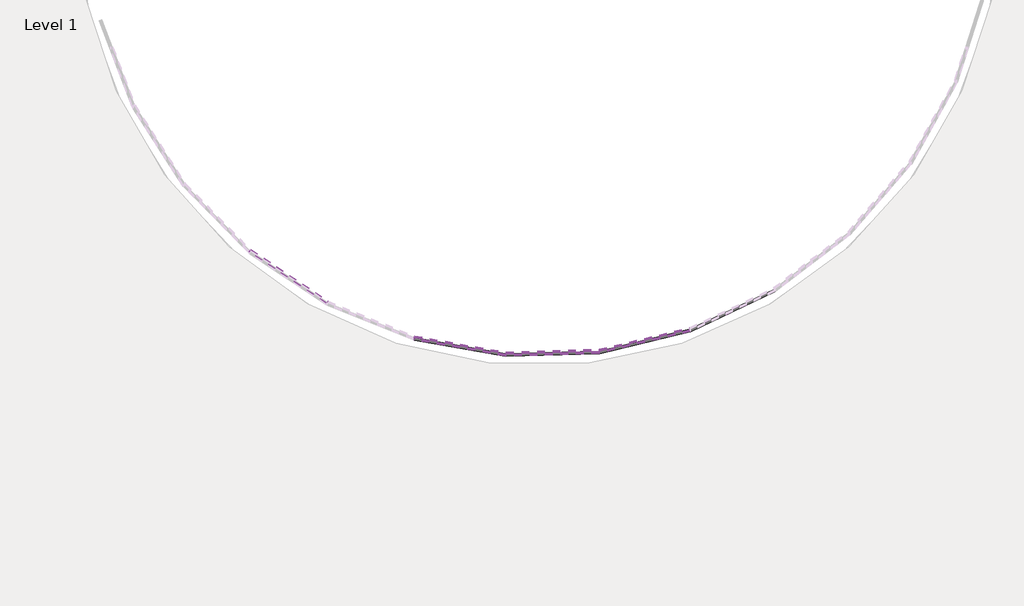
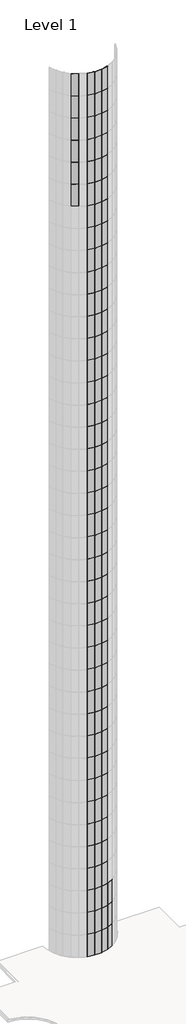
# One storey, part 17 of 19: 129 plates.
"""IFC4 building model written with IfcOpenShell, lengths in millimetres."""

from ifc_helpers import new_model, si_unit, origin, place, context, project, spatial, transform, mapped, element, save
from components import system_panel_glazed_d77d1ebf

model = new_model("IFC4")

# Units and contexts
model_context = context("Model", 3, world=origin())
ifc_project = project(units=[si_unit("LENGTHUNIT", "METRE", prefix="MILLI")], contexts=[model_context])

# Site, building, storey
site = spatial("IfcSite", under=ifc_project)
building = spatial("IfcBuilding", under=site)
storey = spatial("IfcBuildingStorey", under=building, Name="Level 1", Elevation=0.0)

# Plates
placement = place(None, origin())
system_panel_glazed_shape = system_panel_glazed_d77d1ebf(model_context)
element("IfcPlate", 1, ObjectType="System Panel : Glazed", at=placement, inside=storey, context=model_context, shape_type="MappedRepresentation", body=[
    mapped(system_panel_glazed_shape, transform((4552.3376348, 4749.7309007, 0.0), x_axis=(0.9722724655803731, 0.2338509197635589, 0.0), y_axis=(-0.2338509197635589, 0.9722724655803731, 0.0), z_axis=(0.0, 0.0, 1.0))),
])
element("IfcPlate", 2, ObjectType="System Panel : Glazed", at=placement, inside=storey, context=model_context, shape_type="MappedRepresentation", body=[
    mapped(system_panel_glazed_shape, transform((5410.1290798, 5052.2006253, 0.0), x_axis=(0.9039117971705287, 0.4277189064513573, 0.0), y_axis=(-0.4277189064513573, 0.9039117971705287, 0.0), z_axis=(0.0, 0.0, 1.0))),
])
element("IfcPlate", 3, ObjectType="System Panel : Glazed", at=placement, inside=storey, context=model_context, shape_type="MappedRepresentation", body=[
    mapped(system_panel_glazed_shape, transform((4552.3376348, 4749.7309007, 3048.0), x_axis=(0.9722724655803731, 0.2338509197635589, 0.0), y_axis=(-0.2338509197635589, 0.9722724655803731, 0.0), z_axis=(0.0, 0.0, 1.0))),
])
element("IfcPlate", 4, ObjectType="System Panel : Glazed", at=placement, inside=storey, context=model_context, shape_type="MappedRepresentation", body=[
    mapped(system_panel_glazed_shape, transform((5410.1290798, 5052.2006253, 3048.0), x_axis=(0.9039117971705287, 0.4277189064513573, 0.0), y_axis=(-0.4277189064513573, 0.9039117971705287, 0.0), z_axis=(0.0, 0.0, 1.0))),
])
element("IfcPlate", 5, ObjectType="System Panel : Glazed", at=placement, inside=storey, context=model_context, shape_type="MappedRepresentation", body=[
    mapped(system_panel_glazed_shape, transform((4552.3376348, 4749.7309007, 6096.0), x_axis=(0.9722724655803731, 0.2338509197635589, 0.0), y_axis=(-0.2338509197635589, 0.9722724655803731, 0.0), z_axis=(0.0, 0.0, 1.0))),
])
element("IfcPlate", 6, ObjectType="System Panel : Glazed", at=placement, inside=storey, context=model_context, shape_type="MappedRepresentation", body=[
    mapped(system_panel_glazed_shape, transform((5410.1290798, 5052.2006253, 6096.0), x_axis=(0.9039117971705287, 0.4277189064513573, 0.0), y_axis=(-0.4277189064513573, 0.9039117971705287, 0.0), z_axis=(0.0, 0.0, 1.0))),
])
element("IfcPlate", 7, ObjectType="System Panel : Glazed", at=placement, inside=storey, context=model_context, shape_type="MappedRepresentation", body=[
    mapped(system_panel_glazed_shape, transform((4552.3376348, 4749.7309007, 9144.0), x_axis=(0.9722724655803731, 0.2338509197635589, 0.0), y_axis=(-0.2338509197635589, 0.9722724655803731, 0.0), z_axis=(0.0, 0.0, 1.0))),
])
element("IfcPlate", 8, ObjectType="System Panel : Glazed", at=placement, inside=storey, context=model_context, shape_type="MappedRepresentation", body=[
    mapped(system_panel_glazed_shape, transform((4552.3376348, 4749.7309007, 12192.0), x_axis=(0.9722724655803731, 0.2338509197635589, 0.0), y_axis=(-0.2338509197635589, 0.9722724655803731, 0.0), z_axis=(0.0, 0.0, 1.0))),
])
element("IfcPlate", 9, ObjectType="System Panel : Glazed", at=placement, inside=storey, context=model_context, shape_type="MappedRepresentation", body=[
    mapped(system_panel_glazed_shape, transform((4552.3376348, 4749.7309007, 15240.0), x_axis=(0.9722724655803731, 0.2338509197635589, 0.0), y_axis=(-0.2338509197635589, 0.9722724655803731, 0.0), z_axis=(0.0, 0.0, 1.0))),
])
element("IfcPlate", 10, ObjectType="System Panel : Glazed", at=placement, inside=storey, context=model_context, shape_type="MappedRepresentation", body=[
    mapped(system_panel_glazed_shape, transform((4552.3376348, 4749.7309007, 18288.0), x_axis=(0.9722724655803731, 0.2338509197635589, 0.0), y_axis=(-0.2338509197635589, 0.9722724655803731, 0.0), z_axis=(0.0, 0.0, 1.0))),
])
element("IfcPlate", 11, ObjectType="System Panel : Glazed", at=placement, inside=storey, context=model_context, shape_type="MappedRepresentation", body=[
    mapped(system_panel_glazed_shape, transform((4552.3376348, 4749.7309007, 21336.0), x_axis=(0.9722724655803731, 0.2338509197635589, 0.0), y_axis=(-0.2338509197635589, 0.9722724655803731, 0.0), z_axis=(0.0, 0.0, 1.0))),
])
element("IfcPlate", 12, ObjectType="System Panel : Glazed", at=placement, inside=storey, context=model_context, shape_type="MappedRepresentation", body=[
    mapped(system_panel_glazed_shape, transform((4552.3376348, 4749.7309007, 24384.0), x_axis=(0.9722724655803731, 0.2338509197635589, 0.0), y_axis=(-0.2338509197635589, 0.9722724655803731, 0.0), z_axis=(0.0, 0.0, 1.0))),
])
element("IfcPlate", 13, ObjectType="System Panel : Glazed", at=placement, inside=storey, context=model_context, shape_type="MappedRepresentation", body=[
    mapped(system_panel_glazed_shape, transform((4552.3376348, 4749.7309007, 27432.0), x_axis=(0.9722724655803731, 0.2338509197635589, 0.0), y_axis=(-0.2338509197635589, 0.9722724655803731, 0.0), z_axis=(0.0, 0.0, 1.0))),
])
element("IfcPlate", 14, ObjectType="System Panel : Glazed", at=placement, inside=storey, context=model_context, shape_type="MappedRepresentation", body=[
    mapped(system_panel_glazed_shape, transform((4552.3376348, 4749.7309007, 30480.0), x_axis=(0.9722724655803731, 0.2338509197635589, 0.0), y_axis=(-0.2338509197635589, 0.9722724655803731, 0.0), z_axis=(0.0, 0.0, 1.0))),
])
element("IfcPlate", 15, ObjectType="System Panel : Glazed", at=placement, inside=storey, context=model_context, shape_type="MappedRepresentation", body=[
    mapped(system_panel_glazed_shape, transform((4552.3376348, 4749.7309007, 33528.0), x_axis=(0.9722724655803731, 0.2338509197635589, 0.0), y_axis=(-0.2338509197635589, 0.9722724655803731, 0.0), z_axis=(0.0, 0.0, 1.0))),
])
element("IfcPlate", 16, ObjectType="System Panel : Glazed", at=placement, inside=storey, context=model_context, shape_type="MappedRepresentation", body=[
    mapped(system_panel_glazed_shape, transform((4552.3376348, 4749.7309007, 36576.0), x_axis=(0.9722724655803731, 0.2338509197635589, 0.0), y_axis=(-0.2338509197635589, 0.9722724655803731, 0.0), z_axis=(0.0, 0.0, 1.0))),
])
element("IfcPlate", 17, ObjectType="System Panel : Glazed", at=placement, inside=storey, context=model_context, shape_type="MappedRepresentation", body=[
    mapped(system_panel_glazed_shape, transform((4552.3376348, 4749.7309007, 39624.0), x_axis=(0.9722724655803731, 0.2338509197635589, 0.0), y_axis=(-0.2338509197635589, 0.9722724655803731, 0.0), z_axis=(0.0, 0.0, 1.0))),
])
element("IfcPlate", 18, ObjectType="System Panel : Glazed", at=placement, inside=storey, context=model_context, shape_type="MappedRepresentation", body=[
    mapped(system_panel_glazed_shape, transform((4552.3376348, 4749.7309007, 42672.0), x_axis=(0.9722724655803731, 0.2338509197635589, 0.0), y_axis=(-0.2338509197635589, 0.9722724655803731, 0.0), z_axis=(0.0, 0.0, 1.0))),
])
element("IfcPlate", 19, ObjectType="System Panel : Glazed", at=placement, inside=storey, context=model_context, shape_type="MappedRepresentation", body=[
    mapped(system_panel_glazed_shape, transform((4552.3376348, 4749.7309007, 45720.0), x_axis=(0.9722724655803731, 0.2338509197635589, 0.0), y_axis=(-0.2338509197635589, 0.9722724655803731, 0.0), z_axis=(0.0, 0.0, 1.0))),
])
element("IfcPlate", 20, ObjectType="System Panel : Glazed", at=placement, inside=storey, context=model_context, shape_type="MappedRepresentation", body=[
    mapped(system_panel_glazed_shape, transform((4552.3376348, 4749.7309007, 48768.0), x_axis=(0.9722724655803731, 0.2338509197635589, 0.0), y_axis=(-0.2338509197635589, 0.9722724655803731, 0.0), z_axis=(0.0, 0.0, 1.0))),
])
element("IfcPlate", 21, ObjectType="System Panel : Glazed", at=placement, inside=storey, context=model_context, shape_type="MappedRepresentation", body=[
    mapped(system_panel_glazed_shape, transform((4552.3376348, 4749.7309007, 51816.0), x_axis=(0.9722724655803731, 0.2338509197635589, 0.0), y_axis=(-0.2338509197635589, 0.9722724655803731, 0.0), z_axis=(0.0, 0.0, 1.0))),
])
element("IfcPlate", 22, ObjectType="System Panel : Glazed", at=placement, inside=storey, context=model_context, shape_type="MappedRepresentation", body=[
    mapped(system_panel_glazed_shape, transform((4552.3376348, 4749.7309007, 54864.0), x_axis=(0.9722724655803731, 0.2338509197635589, 0.0), y_axis=(-0.2338509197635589, 0.9722724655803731, 0.0), z_axis=(0.0, 0.0, 1.0))),
])
element("IfcPlate", 23, ObjectType="System Panel : Glazed", at=placement, inside=storey, context=model_context, shape_type="MappedRepresentation", body=[
    mapped(system_panel_glazed_shape, transform((4552.3376348, 4749.7309007, 57912.0), x_axis=(0.9722724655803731, 0.2338509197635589, 0.0), y_axis=(-0.2338509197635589, 0.9722724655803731, 0.0), z_axis=(0.0, 0.0, 1.0))),
])
element("IfcPlate", 24, ObjectType="System Panel : Glazed", at=placement, inside=storey, context=model_context, shape_type="MappedRepresentation", body=[
    mapped(system_panel_glazed_shape, transform((4552.3376348, 4749.7309007, 60960.0), x_axis=(0.9722724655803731, 0.2338509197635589, 0.0), y_axis=(-0.2338509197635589, 0.9722724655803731, 0.0), z_axis=(0.0, 0.0, 1.0))),
])
element("IfcPlate", 25, ObjectType="System Panel : Glazed", at=placement, inside=storey, context=model_context, shape_type="MappedRepresentation", body=[
    mapped(system_panel_glazed_shape, transform((4552.3376348, 4749.7309007, 64008.0), x_axis=(0.9722724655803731, 0.2338509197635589, 0.0), y_axis=(-0.2338509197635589, 0.9722724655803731, 0.0), z_axis=(0.0, 0.0, 1.0))),
])
element("IfcPlate", 26, ObjectType="System Panel : Glazed", at=placement, inside=storey, context=model_context, shape_type="MappedRepresentation", body=[
    mapped(system_panel_glazed_shape, transform((4552.3376348, 4749.7309007, 67056.0), x_axis=(0.9722724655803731, 0.2338509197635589, 0.0), y_axis=(-0.2338509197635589, 0.9722724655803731, 0.0), z_axis=(0.0, 0.0, 1.0))),
])
element("IfcPlate", 27, ObjectType="System Panel : Glazed", at=placement, inside=storey, context=model_context, shape_type="MappedRepresentation", body=[
    mapped(system_panel_glazed_shape, transform((4552.3376348, 4749.7309007, 70104.0), x_axis=(0.9722724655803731, 0.2338509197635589, 0.0), y_axis=(-0.2338509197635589, 0.9722724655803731, 0.0), z_axis=(0.0, 0.0, 1.0))),
])
element("IfcPlate", 28, ObjectType="System Panel : Glazed", at=placement, inside=storey, context=model_context, shape_type="MappedRepresentation", body=[
    mapped(system_panel_glazed_shape, transform((4552.3376348, 4749.7309007, 73152.0), x_axis=(0.9722724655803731, 0.2338509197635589, 0.0), y_axis=(-0.2338509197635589, 0.9722724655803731, 0.0), z_axis=(0.0, 0.0, 1.0))),
])
element("IfcPlate", 29, ObjectType="System Panel : Glazed", at=placement, inside=storey, context=model_context, shape_type="MappedRepresentation", body=[
    mapped(system_panel_glazed_shape, transform((4552.3376348, 4749.7309007, 76200.0), x_axis=(0.9722724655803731, 0.2338509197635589, 0.0), y_axis=(-0.2338509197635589, 0.9722724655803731, 0.0), z_axis=(0.0, 0.0, 1.0))),
])
element("IfcPlate", 30, ObjectType="System Panel : Glazed", at=placement, inside=storey, context=model_context, shape_type="MappedRepresentation", body=[
    mapped(system_panel_glazed_shape, transform((4552.3376348, 4749.7309007, 79248.0), x_axis=(0.9722724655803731, 0.2338509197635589, 0.0), y_axis=(-0.2338509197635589, 0.9722724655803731, 0.0), z_axis=(0.0, 0.0, 1.0))),
])
element("IfcPlate", 31, ObjectType="System Panel : Glazed", at=placement, inside=storey, context=model_context, shape_type="MappedRepresentation", body=[
    mapped(system_panel_glazed_shape, transform((4552.3376348, 4749.7309007, 82296.0), x_axis=(0.9722724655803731, 0.2338509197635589, 0.0), y_axis=(-0.2338509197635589, 0.9722724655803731, 0.0), z_axis=(0.0, 0.0, 1.0))),
])
element("IfcPlate", 32, ObjectType="System Panel : Glazed", at=placement, inside=storey, context=model_context, shape_type="MappedRepresentation", body=[
    mapped(system_panel_glazed_shape, transform((4552.3376348, 4749.7309007, 85344.0), x_axis=(0.9722724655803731, 0.2338509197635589, 0.0), y_axis=(-0.2338509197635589, 0.9722724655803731, 0.0), z_axis=(0.0, 0.0, 1.0))),
])
element("IfcPlate", 33, ObjectType="System Panel : Glazed", at=placement, inside=storey, context=model_context, shape_type="MappedRepresentation", body=[
    mapped(system_panel_glazed_shape, transform((4552.3376348, 4749.7309007, 88392.0), x_axis=(0.9722724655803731, 0.2338509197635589, 0.0), y_axis=(-0.2338509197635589, 0.9722724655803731, 0.0), z_axis=(0.0, 0.0, 1.0))),
])
element("IfcPlate", 34, ObjectType="System Panel : Glazed", at=placement, inside=storey, context=model_context, shape_type="MappedRepresentation", body=[
    mapped(system_panel_glazed_shape, transform((4552.3376348, 4749.7309007, 91440.0), x_axis=(0.9722724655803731, 0.2338509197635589, 0.0), y_axis=(-0.2338509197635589, 0.9722724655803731, 0.0), z_axis=(0.0, 0.0, 1.0))),
])
element("IfcPlate", 35, ObjectType="System Panel : Glazed", at=placement, inside=storey, context=model_context, shape_type="MappedRepresentation", body=[
    mapped(system_panel_glazed_shape, transform((4552.3376348, 4749.7309007, 94488.0), x_axis=(0.9722724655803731, 0.2338509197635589, 0.0), y_axis=(-0.2338509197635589, 0.9722724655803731, 0.0), z_axis=(0.0, 0.0, 1.0))),
])
element("IfcPlate", 36, ObjectType="System Panel : Glazed", at=placement, inside=storey, context=model_context, shape_type="MappedRepresentation", body=[
    mapped(system_panel_glazed_shape, transform((4552.3376348, 4749.7309007, 97536.0), x_axis=(0.9722724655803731, 0.2338509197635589, 0.0), y_axis=(-0.2338509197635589, 0.9722724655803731, 0.0), z_axis=(0.0, 0.0, 1.0))),
])
element("IfcPlate", 37, ObjectType="System Panel : Glazed", at=placement, inside=storey, context=model_context, shape_type="MappedRepresentation", body=[
    mapped(system_panel_glazed_shape, transform((4552.3376348, 4749.7309007, 100584.0), x_axis=(0.9722724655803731, 0.2338509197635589, 0.0), y_axis=(-0.2338509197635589, 0.9722724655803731, 0.0), z_axis=(0.0, 0.0, 1.0))),
])
element("IfcPlate", 38, ObjectType="System Panel : Glazed", at=placement, inside=storey, context=model_context, shape_type="MappedRepresentation", body=[
    mapped(system_panel_glazed_shape, transform((2743.6779183, 4695.2639957, 0.0), x_axis=(0.9845824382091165, -0.1749211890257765, 0.0), y_axis=(0.1749211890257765, 0.9845824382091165, 0.0), z_axis=(0.0, 0.0, 1.0))),
])
element("IfcPlate", 39, ObjectType="System Panel : Glazed", at=placement, inside=storey, context=model_context, shape_type="MappedRepresentation", body=[
    mapped(system_panel_glazed_shape, transform((2743.6779183, 4695.2639957, 3048.0), x_axis=(0.9845824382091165, -0.1749211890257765, 0.0), y_axis=(0.1749211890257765, 0.9845824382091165, 0.0), z_axis=(0.0, 0.0, 1.0))),
])
element("IfcPlate", 40, ObjectType="System Panel : Glazed", at=placement, inside=storey, context=model_context, shape_type="MappedRepresentation", body=[
    mapped(system_panel_glazed_shape, transform((2743.6779183, 4695.2639957, 6096.0), x_axis=(0.9845824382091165, -0.1749211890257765, 0.0), y_axis=(0.1749211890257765, 0.9845824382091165, 0.0), z_axis=(0.0, 0.0, 1.0))),
])
element("IfcPlate", 41, ObjectType="System Panel : Glazed", at=placement, inside=storey, context=model_context, shape_type="MappedRepresentation", body=[
    mapped(system_panel_glazed_shape, transform((2743.6779183, 4695.2639957, 9144.0), x_axis=(0.9845824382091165, -0.1749211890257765, 0.0), y_axis=(0.1749211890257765, 0.9845824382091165, 0.0), z_axis=(0.0, 0.0, 1.0))),
])
element("IfcPlate", 42, ObjectType="System Panel : Glazed", at=placement, inside=storey, context=model_context, shape_type="MappedRepresentation", body=[
    mapped(system_panel_glazed_shape, transform((2743.6779183, 4695.2639957, 12192.0), x_axis=(0.9845824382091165, -0.1749211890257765, 0.0), y_axis=(0.1749211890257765, 0.9845824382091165, 0.0), z_axis=(0.0, 0.0, 1.0))),
])
element("IfcPlate", 43, ObjectType="System Panel : Glazed", at=placement, inside=storey, context=model_context, shape_type="MappedRepresentation", body=[
    mapped(system_panel_glazed_shape, transform((2743.6779183, 4695.2639957, 15240.0), x_axis=(0.9845824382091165, -0.1749211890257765, 0.0), y_axis=(0.1749211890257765, 0.9845824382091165, 0.0), z_axis=(0.0, 0.0, 1.0))),
])
element("IfcPlate", 44, ObjectType="System Panel : Glazed", at=placement, inside=storey, context=model_context, shape_type="MappedRepresentation", body=[
    mapped(system_panel_glazed_shape, transform((2743.6779183, 4695.2639957, 18288.0), x_axis=(0.9845824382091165, -0.1749211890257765, 0.0), y_axis=(0.1749211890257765, 0.9845824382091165, 0.0), z_axis=(0.0, 0.0, 1.0))),
])
element("IfcPlate", 45, ObjectType="System Panel : Glazed", at=placement, inside=storey, context=model_context, shape_type="MappedRepresentation", body=[
    mapped(system_panel_glazed_shape, transform((2743.6779183, 4695.2639957, 21336.0), x_axis=(0.9845824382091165, -0.1749211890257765, 0.0), y_axis=(0.1749211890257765, 0.9845824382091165, 0.0), z_axis=(0.0, 0.0, 1.0))),
])
element("IfcPlate", 46, ObjectType="System Panel : Glazed", at=placement, inside=storey, context=model_context, shape_type="MappedRepresentation", body=[
    mapped(system_panel_glazed_shape, transform((2743.6779183, 4695.2639957, 24384.0), x_axis=(0.9845824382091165, -0.1749211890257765, 0.0), y_axis=(0.1749211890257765, 0.9845824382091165, 0.0), z_axis=(0.0, 0.0, 1.0))),
])
element("IfcPlate", 47, ObjectType="System Panel : Glazed", at=placement, inside=storey, context=model_context, shape_type="MappedRepresentation", body=[
    mapped(system_panel_glazed_shape, transform((2743.6779183, 4695.2639957, 27432.0), x_axis=(0.9845824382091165, -0.1749211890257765, 0.0), y_axis=(0.1749211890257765, 0.9845824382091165, 0.0), z_axis=(0.0, 0.0, 1.0))),
])
element("IfcPlate", 48, ObjectType="System Panel : Glazed", at=placement, inside=storey, context=model_context, shape_type="MappedRepresentation", body=[
    mapped(system_panel_glazed_shape, transform((2743.6779183, 4695.2639957, 30480.0), x_axis=(0.9845824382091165, -0.1749211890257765, 0.0), y_axis=(0.1749211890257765, 0.9845824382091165, 0.0), z_axis=(0.0, 0.0, 1.0))),
])
element("IfcPlate", 49, ObjectType="System Panel : Glazed", at=placement, inside=storey, context=model_context, shape_type="MappedRepresentation", body=[
    mapped(system_panel_glazed_shape, transform((2743.6779183, 4695.2639957, 33528.0), x_axis=(0.9845824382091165, -0.1749211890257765, 0.0), y_axis=(0.1749211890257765, 0.9845824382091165, 0.0), z_axis=(0.0, 0.0, 1.0))),
])
element("IfcPlate", 50, ObjectType="System Panel : Glazed", at=placement, inside=storey, context=model_context, shape_type="MappedRepresentation", body=[
    mapped(system_panel_glazed_shape, transform((2743.6779183, 4695.2639957, 36576.0), x_axis=(0.9845824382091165, -0.1749211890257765, 0.0), y_axis=(0.1749211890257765, 0.9845824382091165, 0.0), z_axis=(0.0, 0.0, 1.0))),
])
element("IfcPlate", 51, ObjectType="System Panel : Glazed", at=placement, inside=storey, context=model_context, shape_type="MappedRepresentation", body=[
    mapped(system_panel_glazed_shape, transform((2743.6779183, 4695.2639957, 39624.0), x_axis=(0.9845824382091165, -0.1749211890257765, 0.0), y_axis=(0.1749211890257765, 0.9845824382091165, 0.0), z_axis=(0.0, 0.0, 1.0))),
])
element("IfcPlate", 52, ObjectType="System Panel : Glazed", at=placement, inside=storey, context=model_context, shape_type="MappedRepresentation", body=[
    mapped(system_panel_glazed_shape, transform((2743.6779183, 4695.2639957, 42672.0), x_axis=(0.9845824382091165, -0.1749211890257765, 0.0), y_axis=(0.1749211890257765, 0.9845824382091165, 0.0), z_axis=(0.0, 0.0, 1.0))),
])
element("IfcPlate", 53, ObjectType="System Panel : Glazed", at=placement, inside=storey, context=model_context, shape_type="MappedRepresentation", body=[
    mapped(system_panel_glazed_shape, transform((2743.6779183, 4695.2639957, 45720.0), x_axis=(0.9845824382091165, -0.1749211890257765, 0.0), y_axis=(0.1749211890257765, 0.9845824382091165, 0.0), z_axis=(0.0, 0.0, 1.0))),
])
element("IfcPlate", 54, ObjectType="System Panel : Glazed", at=placement, inside=storey, context=model_context, shape_type="MappedRepresentation", body=[
    mapped(system_panel_glazed_shape, transform((2743.6779183, 4695.2639957, 48768.0), x_axis=(0.9845824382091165, -0.1749211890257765, 0.0), y_axis=(0.1749211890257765, 0.9845824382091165, 0.0), z_axis=(0.0, 0.0, 1.0))),
])
element("IfcPlate", 55, ObjectType="System Panel : Glazed", at=placement, inside=storey, context=model_context, shape_type="MappedRepresentation", body=[
    mapped(system_panel_glazed_shape, transform((2743.6779183, 4695.2639957, 51816.0), x_axis=(0.9845824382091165, -0.1749211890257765, 0.0), y_axis=(0.1749211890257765, 0.9845824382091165, 0.0), z_axis=(0.0, 0.0, 1.0))),
])
element("IfcPlate", 56, ObjectType="System Panel : Glazed", at=placement, inside=storey, context=model_context, shape_type="MappedRepresentation", body=[
    mapped(system_panel_glazed_shape, transform((2743.6779183, 4695.2639957, 54864.0), x_axis=(0.9845824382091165, -0.1749211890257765, 0.0), y_axis=(0.1749211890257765, 0.9845824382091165, 0.0), z_axis=(0.0, 0.0, 1.0))),
])
element("IfcPlate", 57, ObjectType="System Panel : Glazed", at=placement, inside=storey, context=model_context, shape_type="MappedRepresentation", body=[
    mapped(system_panel_glazed_shape, transform((2743.6779183, 4695.2639957, 57912.0), x_axis=(0.9845824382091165, -0.1749211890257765, 0.0), y_axis=(0.1749211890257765, 0.9845824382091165, 0.0), z_axis=(0.0, 0.0, 1.0))),
])
element("IfcPlate", 58, ObjectType="System Panel : Glazed", at=placement, inside=storey, context=model_context, shape_type="MappedRepresentation", body=[
    mapped(system_panel_glazed_shape, transform((2743.6779183, 4695.2639957, 60960.0), x_axis=(0.9845824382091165, -0.1749211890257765, 0.0), y_axis=(0.1749211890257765, 0.9845824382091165, 0.0), z_axis=(0.0, 0.0, 1.0))),
])
element("IfcPlate", 59, ObjectType="System Panel : Glazed", at=placement, inside=storey, context=model_context, shape_type="MappedRepresentation", body=[
    mapped(system_panel_glazed_shape, transform((2743.6779183, 4695.2639957, 64008.0), x_axis=(0.9845824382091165, -0.1749211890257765, 0.0), y_axis=(0.1749211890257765, 0.9845824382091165, 0.0), z_axis=(0.0, 0.0, 1.0))),
])
element("IfcPlate", 60, ObjectType="System Panel : Glazed", at=placement, inside=storey, context=model_context, shape_type="MappedRepresentation", body=[
    mapped(system_panel_glazed_shape, transform((2743.6779183, 4695.2639957, 67056.0), x_axis=(0.9845824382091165, -0.1749211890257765, 0.0), y_axis=(0.1749211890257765, 0.9845824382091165, 0.0), z_axis=(0.0, 0.0, 1.0))),
])
element("IfcPlate", 61, ObjectType="System Panel : Glazed", at=placement, inside=storey, context=model_context, shape_type="MappedRepresentation", body=[
    mapped(system_panel_glazed_shape, transform((2743.6779183, 4695.2639957, 70104.0), x_axis=(0.9845824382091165, -0.1749211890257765, 0.0), y_axis=(0.1749211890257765, 0.9845824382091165, 0.0), z_axis=(0.0, 0.0, 1.0))),
])
element("IfcPlate", 62, ObjectType="System Panel : Glazed", at=placement, inside=storey, context=model_context, shape_type="MappedRepresentation", body=[
    mapped(system_panel_glazed_shape, transform((2743.6779183, 4695.2639957, 73152.0), x_axis=(0.9845824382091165, -0.1749211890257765, 0.0), y_axis=(0.1749211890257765, 0.9845824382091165, 0.0), z_axis=(0.0, 0.0, 1.0))),
])
element("IfcPlate", 63, ObjectType="System Panel : Glazed", at=placement, inside=storey, context=model_context, shape_type="MappedRepresentation", body=[
    mapped(system_panel_glazed_shape, transform((2743.6779183, 4695.2639957, 76200.0), x_axis=(0.9845824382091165, -0.1749211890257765, 0.0), y_axis=(0.1749211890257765, 0.9845824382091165, 0.0), z_axis=(0.0, 0.0, 1.0))),
])
element("IfcPlate", 64, ObjectType="System Panel : Glazed", at=placement, inside=storey, context=model_context, shape_type="MappedRepresentation", body=[
    mapped(system_panel_glazed_shape, transform((2743.6779183, 4695.2639957, 79248.0), x_axis=(0.9845824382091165, -0.1749211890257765, 0.0), y_axis=(0.1749211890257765, 0.9845824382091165, 0.0), z_axis=(0.0, 0.0, 1.0))),
])
element("IfcPlate", 65, ObjectType="System Panel : Glazed", at=placement, inside=storey, context=model_context, shape_type="MappedRepresentation", body=[
    mapped(system_panel_glazed_shape, transform((2743.6779183, 4695.2639957, 82296.0), x_axis=(0.9845824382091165, -0.1749211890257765, 0.0), y_axis=(0.1749211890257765, 0.9845824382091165, 0.0), z_axis=(0.0, 0.0, 1.0))),
])
element("IfcPlate", 66, ObjectType="System Panel : Glazed", at=placement, inside=storey, context=model_context, shape_type="MappedRepresentation", body=[
    mapped(system_panel_glazed_shape, transform((2743.6779183, 4695.2639957, 85344.0), x_axis=(0.9845824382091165, -0.1749211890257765, 0.0), y_axis=(0.1749211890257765, 0.9845824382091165, 0.0), z_axis=(0.0, 0.0, 1.0))),
])
element("IfcPlate", 67, ObjectType="System Panel : Glazed", at=placement, inside=storey, context=model_context, shape_type="MappedRepresentation", body=[
    mapped(system_panel_glazed_shape, transform((2743.6779183, 4695.2639957, 88392.0), x_axis=(0.9845824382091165, -0.1749211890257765, 0.0), y_axis=(0.1749211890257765, 0.9845824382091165, 0.0), z_axis=(0.0, 0.0, 1.0))),
])
element("IfcPlate", 68, ObjectType="System Panel : Glazed", at=placement, inside=storey, context=model_context, shape_type="MappedRepresentation", body=[
    mapped(system_panel_glazed_shape, transform((2743.6779183, 4695.2639957, 91440.0), x_axis=(0.9845824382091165, -0.1749211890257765, 0.0), y_axis=(0.1749211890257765, 0.9845824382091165, 0.0), z_axis=(0.0, 0.0, 1.0))),
])
element("IfcPlate", 69, ObjectType="System Panel : Glazed", at=placement, inside=storey, context=model_context, shape_type="MappedRepresentation", body=[
    mapped(system_panel_glazed_shape, transform((2743.6779183, 4695.2639957, 94488.0), x_axis=(0.9845824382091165, -0.1749211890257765, 0.0), y_axis=(0.1749211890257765, 0.9845824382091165, 0.0), z_axis=(0.0, 0.0, 1.0))),
])
element("IfcPlate", 70, ObjectType="System Panel : Glazed", at=placement, inside=storey, context=model_context, shape_type="MappedRepresentation", body=[
    mapped(system_panel_glazed_shape, transform((2743.6779183, 4695.2639957, 97536.0), x_axis=(0.9845824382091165, -0.1749211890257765, 0.0), y_axis=(0.1749211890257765, 0.9845824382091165, 0.0), z_axis=(0.0, 0.0, 1.0))),
])
element("IfcPlate", 71, ObjectType="System Panel : Glazed", at=placement, inside=storey, context=model_context, shape_type="MappedRepresentation", body=[
    mapped(system_panel_glazed_shape, transform((2743.6779183, 4695.2639957, 100584.0), x_axis=(0.9845824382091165, -0.1749211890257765, 0.0), y_axis=(0.1749211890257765, 0.9845824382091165, 0.0), z_axis=(0.0, 0.0, 1.0))),
])
element("IfcPlate", 72, ObjectType="System Panel : Glazed", at=placement, inside=storey, context=model_context, shape_type="MappedRepresentation", body=[
    mapped(system_panel_glazed_shape, transform((3650.8218363, 4629.0521442, 0.0), x_axis=(0.9995468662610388, 0.030100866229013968, 0.0), y_axis=(-0.030100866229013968, 0.9995468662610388, 0.0), z_axis=(0.0, 0.0, 1.0))),
])
element("IfcPlate", 73, ObjectType="System Panel : Glazed", at=placement, inside=storey, context=model_context, shape_type="MappedRepresentation", body=[
    mapped(system_panel_glazed_shape, transform((3650.8218363, 4629.0521442, 3048.0), x_axis=(0.9995468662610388, 0.030100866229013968, 0.0), y_axis=(-0.030100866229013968, 0.9995468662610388, 0.0), z_axis=(0.0, 0.0, 1.0))),
])
element("IfcPlate", 74, ObjectType="System Panel : Glazed", at=placement, inside=storey, context=model_context, shape_type="MappedRepresentation", body=[
    mapped(system_panel_glazed_shape, transform((3650.8218363, 4629.0521442, 6096.0), x_axis=(0.9995468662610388, 0.030100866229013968, 0.0), y_axis=(-0.030100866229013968, 0.9995468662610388, 0.0), z_axis=(0.0, 0.0, 1.0))),
])
element("IfcPlate", 75, ObjectType="System Panel : Glazed", at=placement, inside=storey, context=model_context, shape_type="MappedRepresentation", body=[
    mapped(system_panel_glazed_shape, transform((3650.8218363, 4629.0521442, 9144.0), x_axis=(0.9995468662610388, 0.030100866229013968, 0.0), y_axis=(-0.030100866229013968, 0.9995468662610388, 0.0), z_axis=(0.0, 0.0, 1.0))),
])
element("IfcPlate", 76, ObjectType="System Panel : Glazed", at=placement, inside=storey, context=model_context, shape_type="MappedRepresentation", body=[
    mapped(system_panel_glazed_shape, transform((3650.8218363, 4629.0521442, 12192.0), x_axis=(0.9995468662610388, 0.030100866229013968, 0.0), y_axis=(-0.030100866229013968, 0.9995468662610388, 0.0), z_axis=(0.0, 0.0, 1.0))),
])
element("IfcPlate", 77, ObjectType="System Panel : Glazed", at=placement, inside=storey, context=model_context, shape_type="MappedRepresentation", body=[
    mapped(system_panel_glazed_shape, transform((3650.8218363, 4629.0521442, 15240.0), x_axis=(0.9995468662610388, 0.030100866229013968, 0.0), y_axis=(-0.030100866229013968, 0.9995468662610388, 0.0), z_axis=(0.0, 0.0, 1.0))),
])
element("IfcPlate", 78, ObjectType="System Panel : Glazed", at=placement, inside=storey, context=model_context, shape_type="MappedRepresentation", body=[
    mapped(system_panel_glazed_shape, transform((3650.8218363, 4629.0521442, 18288.0), x_axis=(0.9995468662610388, 0.03010086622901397, 0.0), y_axis=(-0.03010086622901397, 0.9995468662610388, 0.0), z_axis=(0.0, 0.0, 1.0))),
])
element("IfcPlate", 79, ObjectType="System Panel : Glazed", at=placement, inside=storey, context=model_context, shape_type="MappedRepresentation", body=[
    mapped(system_panel_glazed_shape, transform((3650.8218363, 4629.0521442, 21336.0), x_axis=(0.9995468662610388, 0.030100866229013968, 0.0), y_axis=(-0.030100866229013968, 0.9995468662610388, 0.0), z_axis=(0.0, 0.0, 1.0))),
])
element("IfcPlate", 80, ObjectType="System Panel : Glazed", at=placement, inside=storey, context=model_context, shape_type="MappedRepresentation", body=[
    mapped(system_panel_glazed_shape, transform((3650.8218363, 4629.0521442, 24384.0), x_axis=(0.9995468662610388, 0.030100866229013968, 0.0), y_axis=(-0.030100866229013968, 0.9995468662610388, 0.0), z_axis=(0.0, 0.0, 1.0))),
])
element("IfcPlate", 81, ObjectType="System Panel : Glazed", at=placement, inside=storey, context=model_context, shape_type="MappedRepresentation", body=[
    mapped(system_panel_glazed_shape, transform((3650.8218363, 4629.0521442, 27432.0), x_axis=(0.9995468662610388, 0.030100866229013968, 0.0), y_axis=(-0.030100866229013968, 0.9995468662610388, 0.0), z_axis=(0.0, 0.0, 1.0))),
])
element("IfcPlate", 82, ObjectType="System Panel : Glazed", at=placement, inside=storey, context=model_context, shape_type="MappedRepresentation", body=[
    mapped(system_panel_glazed_shape, transform((3650.8218363, 4629.0521442, 30480.0), x_axis=(0.9995468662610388, 0.030100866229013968, 0.0), y_axis=(-0.030100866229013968, 0.9995468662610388, 0.0), z_axis=(0.0, 0.0, 1.0))),
])
element("IfcPlate", 83, ObjectType="System Panel : Glazed", at=placement, inside=storey, context=model_context, shape_type="MappedRepresentation", body=[
    mapped(system_panel_glazed_shape, transform((3650.8218363, 4629.0521442, 33528.0), x_axis=(0.9995468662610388, 0.030100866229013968, 0.0), y_axis=(-0.030100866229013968, 0.9995468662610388, 0.0), z_axis=(0.0, 0.0, 1.0))),
])
element("IfcPlate", 84, ObjectType="System Panel : Glazed", at=placement, inside=storey, context=model_context, shape_type="MappedRepresentation", body=[
    mapped(system_panel_glazed_shape, transform((3650.8218363, 4629.0521442, 36576.0), x_axis=(0.9995468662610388, 0.030100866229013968, 0.0), y_axis=(-0.030100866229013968, 0.9995468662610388, 0.0), z_axis=(0.0, 0.0, 1.0))),
])
element("IfcPlate", 85, ObjectType="System Panel : Glazed", at=placement, inside=storey, context=model_context, shape_type="MappedRepresentation", body=[
    mapped(system_panel_glazed_shape, transform((3650.8218363, 4629.0521442, 39624.0), x_axis=(0.9995468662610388, 0.030100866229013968, 0.0), y_axis=(-0.030100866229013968, 0.9995468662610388, 0.0), z_axis=(0.0, 0.0, 1.0))),
])
element("IfcPlate", 86, ObjectType="System Panel : Glazed", at=placement, inside=storey, context=model_context, shape_type="MappedRepresentation", body=[
    mapped(system_panel_glazed_shape, transform((3650.8218363, 4629.0521442, 42672.0), x_axis=(0.9995468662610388, 0.030100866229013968, 0.0), y_axis=(-0.030100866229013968, 0.9995468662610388, 0.0), z_axis=(0.0, 0.0, 1.0))),
])
element("IfcPlate", 87, ObjectType="System Panel : Glazed", at=placement, inside=storey, context=model_context, shape_type="MappedRepresentation", body=[
    mapped(system_panel_glazed_shape, transform((3650.8218363, 4629.0521442, 45720.0), x_axis=(0.9995468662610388, 0.030100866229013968, 0.0), y_axis=(-0.030100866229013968, 0.9995468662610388, 0.0), z_axis=(0.0, 0.0, 1.0))),
])
element("IfcPlate", 88, ObjectType="System Panel : Glazed", at=placement, inside=storey, context=model_context, shape_type="MappedRepresentation", body=[
    mapped(system_panel_glazed_shape, transform((3650.8218363, 4629.0521442, 48768.0), x_axis=(0.9995468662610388, 0.030100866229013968, 0.0), y_axis=(-0.030100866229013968, 0.9995468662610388, 0.0), z_axis=(0.0, 0.0, 1.0))),
])
element("IfcPlate", 89, ObjectType="System Panel : Glazed", at=placement, inside=storey, context=model_context, shape_type="MappedRepresentation", body=[
    mapped(system_panel_glazed_shape, transform((3650.8218363, 4629.0521442, 51816.0), x_axis=(0.9995468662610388, 0.030100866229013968, 0.0), y_axis=(-0.030100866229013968, 0.9995468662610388, 0.0), z_axis=(0.0, 0.0, 1.0))),
])
element("IfcPlate", 90, ObjectType="System Panel : Glazed", at=placement, inside=storey, context=model_context, shape_type="MappedRepresentation", body=[
    mapped(system_panel_glazed_shape, transform((3650.8218363, 4629.0521442, 54864.0), x_axis=(0.9995468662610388, 0.030100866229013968, 0.0), y_axis=(-0.030100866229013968, 0.9995468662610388, 0.0), z_axis=(0.0, 0.0, 1.0))),
])
element("IfcPlate", 91, ObjectType="System Panel : Glazed", at=placement, inside=storey, context=model_context, shape_type="MappedRepresentation", body=[
    mapped(system_panel_glazed_shape, transform((3650.8218363, 4629.0521442, 57912.0), x_axis=(0.9995468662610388, 0.030100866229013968, 0.0), y_axis=(-0.030100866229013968, 0.9995468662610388, 0.0), z_axis=(0.0, 0.0, 1.0))),
])
element("IfcPlate", 92, ObjectType="System Panel : Glazed", at=placement, inside=storey, context=model_context, shape_type="MappedRepresentation", body=[
    mapped(system_panel_glazed_shape, transform((3650.8218363, 4629.0521442, 60960.0), x_axis=(0.9995468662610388, 0.030100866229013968, 0.0), y_axis=(-0.030100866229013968, 0.9995468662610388, 0.0), z_axis=(0.0, 0.0, 1.0))),
])
element("IfcPlate", 93, ObjectType="System Panel : Glazed", at=placement, inside=storey, context=model_context, shape_type="MappedRepresentation", body=[
    mapped(system_panel_glazed_shape, transform((3650.8218363, 4629.0521442, 64008.0), x_axis=(0.9995468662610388, 0.030100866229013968, 0.0), y_axis=(-0.030100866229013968, 0.9995468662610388, 0.0), z_axis=(0.0, 0.0, 1.0))),
])
element("IfcPlate", 94, ObjectType="System Panel : Glazed", at=placement, inside=storey, context=model_context, shape_type="MappedRepresentation", body=[
    mapped(system_panel_glazed_shape, transform((3650.8218363, 4629.0521442, 67056.0), x_axis=(0.9995468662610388, 0.030100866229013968, 0.0), y_axis=(-0.030100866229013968, 0.9995468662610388, 0.0), z_axis=(0.0, 0.0, 1.0))),
])
element("IfcPlate", 95, ObjectType="System Panel : Glazed", at=placement, inside=storey, context=model_context, shape_type="MappedRepresentation", body=[
    mapped(system_panel_glazed_shape, transform((3650.8218363, 4629.0521442, 70104.0), x_axis=(0.9995468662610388, 0.030100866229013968, 0.0), y_axis=(-0.030100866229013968, 0.9995468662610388, 0.0), z_axis=(0.0, 0.0, 1.0))),
])
element("IfcPlate", 96, ObjectType="System Panel : Glazed", at=placement, inside=storey, context=model_context, shape_type="MappedRepresentation", body=[
    mapped(system_panel_glazed_shape, transform((3650.8218363, 4629.0521442, 73152.0), x_axis=(0.9995468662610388, 0.030100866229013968, 0.0), y_axis=(-0.030100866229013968, 0.9995468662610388, 0.0), z_axis=(0.0, 0.0, 1.0))),
])
element("IfcPlate", 97, ObjectType="System Panel : Glazed", at=placement, inside=storey, context=model_context, shape_type="MappedRepresentation", body=[
    mapped(system_panel_glazed_shape, transform((3650.8218363, 4629.0521442, 76200.0), x_axis=(0.9995468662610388, 0.030100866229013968, 0.0), y_axis=(-0.030100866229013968, 0.9995468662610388, 0.0), z_axis=(0.0, 0.0, 1.0))),
])
element("IfcPlate", 98, ObjectType="System Panel : Glazed", at=placement, inside=storey, context=model_context, shape_type="MappedRepresentation", body=[
    mapped(system_panel_glazed_shape, transform((3650.8218363, 4629.0521442, 79248.0), x_axis=(0.9995468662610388, 0.030100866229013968, 0.0), y_axis=(-0.030100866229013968, 0.9995468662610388, 0.0), z_axis=(0.0, 0.0, 1.0))),
])
element("IfcPlate", 99, ObjectType="System Panel : Glazed", at=placement, inside=storey, context=model_context, shape_type="MappedRepresentation", body=[
    mapped(system_panel_glazed_shape, transform((3650.8218363, 4629.0521442, 82296.0), x_axis=(0.9995468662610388, 0.030100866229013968, 0.0), y_axis=(-0.030100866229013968, 0.9995468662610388, 0.0), z_axis=(0.0, 0.0, 1.0))),
])
element("IfcPlate", 100, ObjectType="System Panel : Glazed", at=placement, inside=storey, context=model_context, shape_type="MappedRepresentation", body=[
    mapped(system_panel_glazed_shape, transform((3650.8218363, 4629.0521442, 85344.0), x_axis=(0.9995468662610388, 0.030100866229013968, 0.0), y_axis=(-0.030100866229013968, 0.9995468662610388, 0.0), z_axis=(0.0, 0.0, 1.0))),
])
element("IfcPlate", 101, ObjectType="System Panel : Glazed", at=placement, inside=storey, context=model_context, shape_type="MappedRepresentation", body=[
    mapped(system_panel_glazed_shape, transform((3650.8218363, 4629.0521442, 88392.0), x_axis=(0.9995468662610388, 0.030100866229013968, 0.0), y_axis=(-0.030100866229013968, 0.9995468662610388, 0.0), z_axis=(0.0, 0.0, 1.0))),
])
element("IfcPlate", 102, ObjectType="System Panel : Glazed", at=placement, inside=storey, context=model_context, shape_type="MappedRepresentation", body=[
    mapped(system_panel_glazed_shape, transform((3650.8218363, 4629.0521442, 91440.0), x_axis=(0.9995468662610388, 0.030100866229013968, 0.0), y_axis=(-0.030100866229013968, 0.9995468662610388, 0.0), z_axis=(0.0, 0.0, 1.0))),
])
element("IfcPlate", 103, ObjectType="System Panel : Glazed", at=placement, inside=storey, context=model_context, shape_type="MappedRepresentation", body=[
    mapped(system_panel_glazed_shape, transform((3650.8218363, 4629.0521442, 94488.0), x_axis=(0.9995468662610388, 0.030100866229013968, 0.0), y_axis=(-0.030100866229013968, 0.9995468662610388, 0.0), z_axis=(0.0, 0.0, 1.0))),
])
element("IfcPlate", 104, ObjectType="System Panel : Glazed", at=placement, inside=storey, context=model_context, shape_type="MappedRepresentation", body=[
    mapped(system_panel_glazed_shape, transform((3650.8218363, 4629.0521442, 97536.0), x_axis=(0.9995468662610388, 0.030100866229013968, 0.0), y_axis=(-0.030100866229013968, 0.9995468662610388, 0.0), z_axis=(0.0, 0.0, 1.0))),
])
element("IfcPlate", 105, ObjectType="System Panel : Glazed", at=placement, inside=storey, context=model_context, shape_type="MappedRepresentation", body=[
    mapped(system_panel_glazed_shape, transform((3650.8218363, 4629.0521442, 100584.0), x_axis=(0.9995468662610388, 0.030100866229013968, 0.0), y_axis=(-0.030100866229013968, 0.9995468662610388, 0.0), z_axis=(0.0, 0.0, 1.0))),
])
element("IfcPlate", 106, ObjectType="System Panel : Glazed", at=placement, inside=storey, context=model_context, shape_type="MappedRepresentation", body=[
    mapped(system_panel_glazed_shape, transform((1064.4599049, 5369.3882255, 103632.0), x_axis=(0.8322247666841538, -0.5544383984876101, 0.0), y_axis=(0.5544383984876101, 0.8322247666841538, 0.0), z_axis=(0.0, 0.0, 1.0))),
])
element("IfcPlate", 107, ObjectType="System Panel : Glazed", at=placement, inside=storey, context=model_context, shape_type="MappedRepresentation", body=[
    mapped(system_panel_glazed_shape, transform((2743.6779183, 4695.2639957, 103632.0), x_axis=(0.9845824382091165, -0.1749211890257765, 0.0), y_axis=(0.1749211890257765, 0.9845824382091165, 0.0), z_axis=(0.0, 0.0, 1.0))),
])
element("IfcPlate", 108, ObjectType="System Panel : Glazed", at=placement, inside=storey, context=model_context, shape_type="MappedRepresentation", body=[
    mapped(system_panel_glazed_shape, transform((3650.8218363, 4629.0521442, 103632.0), x_axis=(0.9995468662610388, 0.030100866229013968, 0.0), y_axis=(-0.030100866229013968, 0.9995468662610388, 0.0), z_axis=(0.0, 0.0, 1.0))),
])
element("IfcPlate", 109, ObjectType="System Panel : Glazed", at=placement, inside=storey, context=model_context, shape_type="MappedRepresentation", body=[
    mapped(system_panel_glazed_shape, transform((4552.3376348, 4749.7309007, 103632.0), x_axis=(0.9722724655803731, 0.2338509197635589, 0.0), y_axis=(-0.2338509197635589, 0.9722724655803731, 0.0), z_axis=(0.0, 0.0, 1.0))),
])
element("IfcPlate", 110, ObjectType="System Panel : Glazed", at=placement, inside=storey, context=model_context, shape_type="MappedRepresentation", body=[
    mapped(system_panel_glazed_shape, transform((1064.4599049, 5369.3882255, 106680.0), x_axis=(0.8322247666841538, -0.5544383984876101, 0.0), y_axis=(0.5544383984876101, 0.8322247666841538, 0.0), z_axis=(0.0, 0.0, 1.0))),
])
element("IfcPlate", 111, ObjectType="System Panel : Glazed", at=placement, inside=storey, context=model_context, shape_type="MappedRepresentation", body=[
    mapped(system_panel_glazed_shape, transform((2743.6779183, 4695.2639957, 106680.0), x_axis=(0.9845824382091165, -0.1749211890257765, 0.0), y_axis=(0.1749211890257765, 0.9845824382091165, 0.0), z_axis=(0.0, 0.0, 1.0))),
])
element("IfcPlate", 112, ObjectType="System Panel : Glazed", at=placement, inside=storey, context=model_context, shape_type="MappedRepresentation", body=[
    mapped(system_panel_glazed_shape, transform((3650.8218363, 4629.0521442, 106680.0), x_axis=(0.9995468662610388, 0.030100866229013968, 0.0), y_axis=(-0.030100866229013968, 0.9995468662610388, 0.0), z_axis=(0.0, 0.0, 1.0))),
])
element("IfcPlate", 113, ObjectType="System Panel : Glazed", at=placement, inside=storey, context=model_context, shape_type="MappedRepresentation", body=[
    mapped(system_panel_glazed_shape, transform((4552.3376348, 4749.7309007, 106680.0), x_axis=(0.9722724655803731, 0.2338509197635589, 0.0), y_axis=(-0.2338509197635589, 0.9722724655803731, 0.0), z_axis=(0.0, 0.0, 1.0))),
])
element("IfcPlate", 114, ObjectType="System Panel : Glazed", at=placement, inside=storey, context=model_context, shape_type="MappedRepresentation", body=[
    mapped(system_panel_glazed_shape, transform((1064.4599049, 5369.3882255, 109728.0), x_axis=(0.8322247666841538, -0.5544383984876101, 0.0), y_axis=(0.5544383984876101, 0.8322247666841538, 0.0), z_axis=(0.0, 0.0, 1.0))),
])
element("IfcPlate", 115, ObjectType="System Panel : Glazed", at=placement, inside=storey, context=model_context, shape_type="MappedRepresentation", body=[
    mapped(system_panel_glazed_shape, transform((2743.6779183, 4695.2639957, 109728.0), x_axis=(0.9845824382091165, -0.1749211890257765, 0.0), y_axis=(0.1749211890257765, 0.9845824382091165, 0.0), z_axis=(0.0, 0.0, 1.0))),
])
element("IfcPlate", 116, ObjectType="System Panel : Glazed", at=placement, inside=storey, context=model_context, shape_type="MappedRepresentation", body=[
    mapped(system_panel_glazed_shape, transform((3650.8218363, 4629.0521442, 109728.0), x_axis=(0.9995468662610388, 0.030100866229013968, 0.0), y_axis=(-0.030100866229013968, 0.9995468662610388, 0.0), z_axis=(0.0, 0.0, 1.0))),
])
element("IfcPlate", 117, ObjectType="System Panel : Glazed", at=placement, inside=storey, context=model_context, shape_type="MappedRepresentation", body=[
    mapped(system_panel_glazed_shape, transform((4552.3376348, 4749.7309007, 109728.0), x_axis=(0.9722724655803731, 0.2338509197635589, 0.0), y_axis=(-0.2338509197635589, 0.9722724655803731, 0.0), z_axis=(0.0, 0.0, 1.0))),
])
element("IfcPlate", 118, ObjectType="System Panel : Glazed", at=placement, inside=storey, context=model_context, shape_type="MappedRepresentation", body=[
    mapped(system_panel_glazed_shape, transform((1064.4599049, 5369.3882255, 112776.0), x_axis=(0.8322247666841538, -0.5544383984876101, 0.0), y_axis=(0.5544383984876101, 0.8322247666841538, 0.0), z_axis=(0.0, 0.0, 1.0))),
])
element("IfcPlate", 119, ObjectType="System Panel : Glazed", at=placement, inside=storey, context=model_context, shape_type="MappedRepresentation", body=[
    mapped(system_panel_glazed_shape, transform((2743.6779183, 4695.2639957, 112776.0), x_axis=(0.9845824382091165, -0.1749211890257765, 0.0), y_axis=(0.1749211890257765, 0.9845824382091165, 0.0), z_axis=(0.0, 0.0, 1.0))),
])
element("IfcPlate", 120, ObjectType="System Panel : Glazed", at=placement, inside=storey, context=model_context, shape_type="MappedRepresentation", body=[
    mapped(system_panel_glazed_shape, transform((3650.8218363, 4629.0521442, 112776.0), x_axis=(0.9995468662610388, 0.030100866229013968, 0.0), y_axis=(-0.030100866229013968, 0.9995468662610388, 0.0), z_axis=(0.0, 0.0, 1.0))),
])
element("IfcPlate", 121, ObjectType="System Panel : Glazed", at=placement, inside=storey, context=model_context, shape_type="MappedRepresentation", body=[
    mapped(system_panel_glazed_shape, transform((4552.3376348, 4749.7309007, 112776.0), x_axis=(0.9722724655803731, 0.2338509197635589, 0.0), y_axis=(-0.2338509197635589, 0.9722724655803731, 0.0), z_axis=(0.0, 0.0, 1.0))),
])
element("IfcPlate", 122, ObjectType="System Panel : Glazed", at=placement, inside=storey, context=model_context, shape_type="MappedRepresentation", body=[
    mapped(system_panel_glazed_shape, transform((1064.4599049, 5369.3882255, 115824.0), x_axis=(0.8322247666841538, -0.5544383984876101, 0.0), y_axis=(0.5544383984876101, 0.8322247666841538, 0.0), z_axis=(0.0, 0.0, 1.0))),
])
element("IfcPlate", 123, ObjectType="System Panel : Glazed", at=placement, inside=storey, context=model_context, shape_type="MappedRepresentation", body=[
    mapped(system_panel_glazed_shape, transform((2743.6779183, 4695.2639957, 115824.0), x_axis=(0.9845824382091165, -0.1749211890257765, 0.0), y_axis=(0.1749211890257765, 0.9845824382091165, 0.0), z_axis=(0.0, 0.0, 1.0))),
])
element("IfcPlate", 124, ObjectType="System Panel : Glazed", at=placement, inside=storey, context=model_context, shape_type="MappedRepresentation", body=[
    mapped(system_panel_glazed_shape, transform((3650.8218363, 4629.0521442, 115824.0), x_axis=(0.9995468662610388, 0.030100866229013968, 0.0), y_axis=(-0.030100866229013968, 0.9995468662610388, 0.0), z_axis=(0.0, 0.0, 1.0))),
])
element("IfcPlate", 125, ObjectType="System Panel : Glazed", at=placement, inside=storey, context=model_context, shape_type="MappedRepresentation", body=[
    mapped(system_panel_glazed_shape, transform((4552.3376348, 4749.7309007, 115824.0), x_axis=(0.9722724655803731, 0.2338509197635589, 0.0), y_axis=(-0.2338509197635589, 0.9722724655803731, 0.0), z_axis=(0.0, 0.0, 1.0))),
])
element("IfcPlate", 126, ObjectType="System Panel : Glazed", at=placement, inside=storey, context=model_context, shape_type="MappedRepresentation", body=[
    mapped(system_panel_glazed_shape, transform((1064.4599049, 5369.3882255, 118872.0), x_axis=(0.8322247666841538, -0.5544383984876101, 0.0), y_axis=(0.5544383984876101, 0.8322247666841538, 0.0), z_axis=(0.0, 0.0, 1.0))),
])
element("IfcPlate", 127, ObjectType="System Panel : Glazed", at=placement, inside=storey, context=model_context, shape_type="MappedRepresentation", body=[
    mapped(system_panel_glazed_shape, transform((2743.6779183, 4695.2639957, 118872.0), x_axis=(0.9845824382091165, -0.1749211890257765, 0.0), y_axis=(0.1749211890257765, 0.9845824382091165, 0.0), z_axis=(0.0, 0.0, 1.0))),
])
element("IfcPlate", 128, ObjectType="System Panel : Glazed", at=placement, inside=storey, context=model_context, shape_type="MappedRepresentation", body=[
    mapped(system_panel_glazed_shape, transform((3650.8218363, 4629.0521442, 118872.0), x_axis=(0.9995468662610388, 0.030100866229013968, 0.0), y_axis=(-0.030100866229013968, 0.9995468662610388, 0.0), z_axis=(0.0, 0.0, 1.0))),
])
element("IfcPlate", 129, ObjectType="System Panel : Glazed", at=placement, inside=storey, context=model_context, shape_type="MappedRepresentation", body=[
    mapped(system_panel_glazed_shape, transform((4552.3376348, 4749.7309007, 118872.0), x_axis=(0.9722724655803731, 0.2338509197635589, 0.0), y_axis=(-0.2338509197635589, 0.9722724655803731, 0.0), z_axis=(0.0, 0.0, 1.0))),
])

save(model, "model.ifc")
